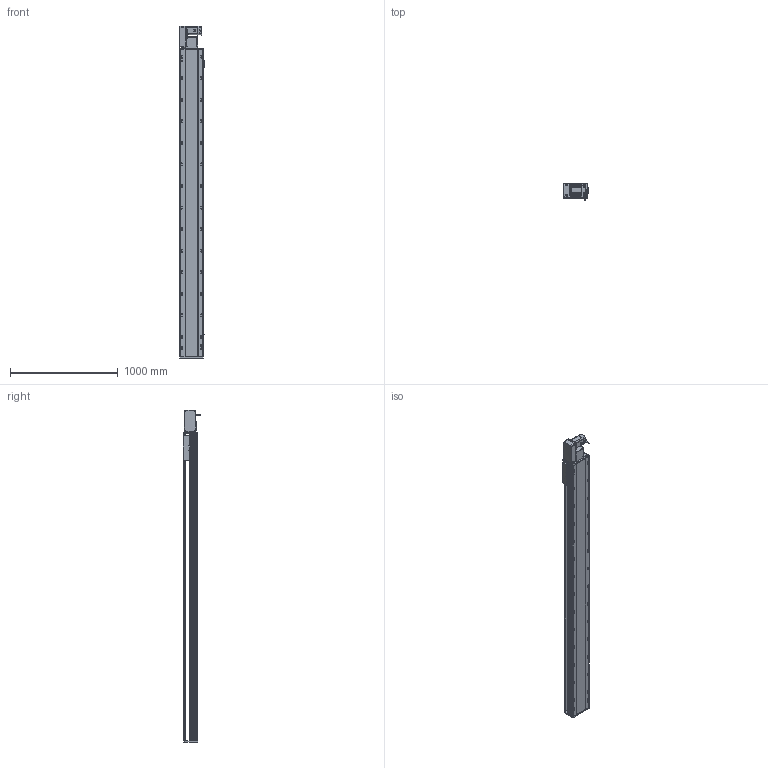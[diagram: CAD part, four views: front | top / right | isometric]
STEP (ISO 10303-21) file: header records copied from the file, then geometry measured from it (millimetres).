
FILE_DESCRIPTION (( 'STEP AP214' ), '1' );
FILE_NAME ('RTB22S-XX-2500-L-M75-C4.STEP', '2025-12-12T03:27:47', ( '' ), ( '' ), 'SwSTEP 2.0', 'SolidWorks 2018', '' );
FILE_SCHEMA (( 'AUTOMOTIVE_DESIGN' ));
Length unit declared in the file: millimetre
Products named in the file (14): RTB22S-GY-017P^RTB22S-L-々湍釱蚾饜_RTB22S-XX-XX-L-M75-C4; RTB22S-GY-014--々湍釱^RTB22S-L-々湍釱蚾饜_RTB22S-XX-XX-L-M75-C4; OMRON EE-SX672 传感器^RTB22S-XX-XX-L-M75-C4; RTB22S-L-004賑釱^RTB22S-XX-XX-L-M75-C4; RTB22S-GY-001耜裔^RTB22S-XX-XX-L-M75-C4; RTB22S-GY-018P^RTB22S-L-々湍釱蚾饜_RTB22S-XX-XX-L-M75-C4; RTB22S-GY-005P^RTB22S-L-々湍釱蚾饜_RTB22S-XX-XX-L-M75-C4; RTB22S-XX-2500-L-M75-C4; RTB22S-L-々湍釱蚾饜^RTB22S-XX-XX-L-M75-C4; 750W萇儂^RTB22S-XX-XX-L-M75-C4; RTB22S-GY-007奻裔^RTB22S-XX-XX-L-M75-C4; RTB22S-L-011菁釱^RTB22S-XX-XX-L-M75-C4; RTB22S-GY-008-M75--萇儂啣^RTB22S-L-々湍釱蚾饜_RTB22S-XX-XX-L-M75-C4; RTH22-GY-013外置感应片^RTB22S-XX-XX-L-M75-C4
Assembly tree (16 placements, depth 3):
  RTB22S-XX-2500-L-M75-C4
    RTB22S-L-011菁釱^RTB22S-XX-XX-L-M75-C4
    750W萇儂^RTB22S-XX-XX-L-M75-C4
    RTB22S-L-004賑釱^RTB22S-XX-XX-L-M75-C4
    OMRON EE-SX672 传感器^RTB22S-XX-XX-L-M75-C4  x3
    RTH22-GY-013外置感应片^RTB22S-XX-XX-L-M75-C4
    RTB22S-GY-007奻裔^RTB22S-XX-XX-L-M75-C4
    RTB22S-GY-001耜裔^RTB22S-XX-XX-L-M75-C4
    RTB22S-L-々湍釱蚾饜^RTB22S-XX-XX-L-M75-C4
      RTB22S-GY-014--々湍釱^RTB22S-L-々湍釱蚾饜_RTB22S-XX-XX-L-M75-C4
      RTB22S-GY-017P^RTB22S-L-々湍釱蚾饜_RTB22S-XX-XX-L-M75-C4  x2
      RTB22S-GY-005P^RTB22S-L-々湍釱蚾饜_RTB22S-XX-XX-L-M75-C4
      RTB22S-GY-008-M75--萇儂啣^RTB22S-L-々湍釱蚾饜_RTB22S-XX-XX-L-M75-C4
      RTB22S-GY-018P^RTB22S-L-々湍釱蚾饜_RTB22S-XX-XX-L-M75-C4
Bounding box: 238.5 x 162.7 x 3079 mm (x, y, z)
Volume: 38762669.7 mm3; surface area: 3964283.8 mm2
Topology: 15 solids, 15 shells, 2109 faces, 5736 edges, 3662 vertices
Faces by surface type: plane 929, cylinder 706, bspline 296, cone 166, sphere 8, torus 4
Entity records: 57374 total; most frequent: CARTESIAN_POINT 16208, ORIENTED_EDGE 8204, DIRECTION 8016, EDGE_CURVE 4102, AXIS2_PLACEMENT_3D 2874, VERTEX_POINT 2666, VECTOR 2268, LINE 2268
